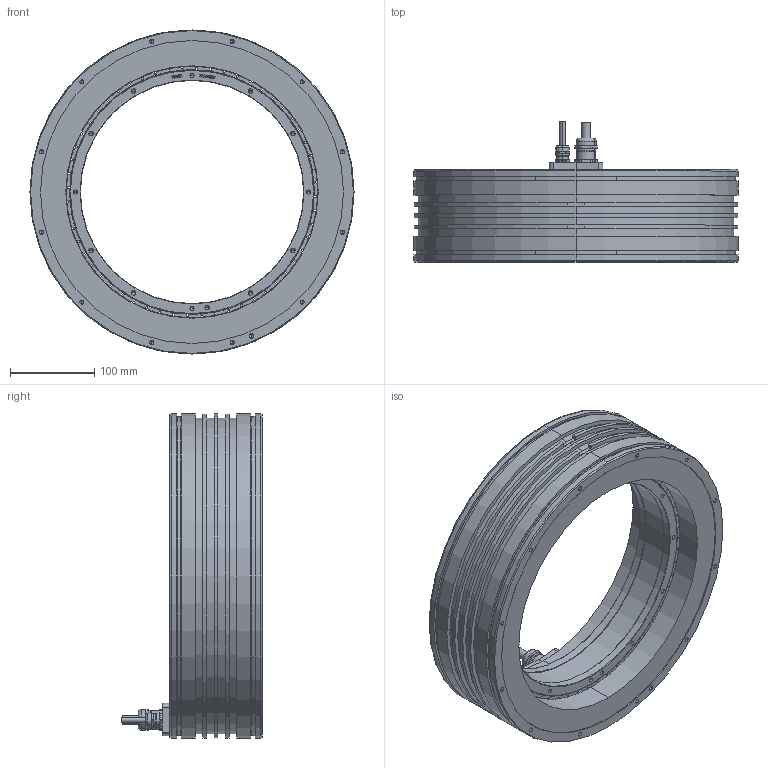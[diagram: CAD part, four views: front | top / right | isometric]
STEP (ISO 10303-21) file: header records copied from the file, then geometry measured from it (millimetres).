
FILE_DESCRIPTION (( 'STEP AP214' ), '1' );
FILE_NAME ('TORQUE KIT QMT LA 385-110-I-AX.STEP', '2025-09-04T13:31:31', ( '' ), ( '' ), 'SwSTEP 2.0', 'SolidWorks 2023', '' );
FILE_SCHEMA (( 'AUTOMOTIVE_DESIGN' ));
Length unit declared in the file: millimetre
Products named in the file (21): Housing-BO; Cable Connection; Magnet; Cable; Screw; Cable Gland; Stator; Cable Clamp; Cooling Ring; Rotor; Housing; Rotor_Glued; Rotor Ring; Resin; TORQUE KIT QMT LA 385-110-I-AX
Assembly tree (76 placements, depth 6):
  TORQUE KIT QMT LA 385-110-I-AX
    Stator
      Stator
        Housing
          Housing-BO
            Cooling Ring
        Cable Connection
          Cable Connection
          Cable
          Cable
        Resin
      Cable Clamp
        Cable Clamp
        Cable Gland
        Cable Gland
      Screw  x3
    Rotor
      Rotor_Glued
        Rotor Ring
        Magnet  x28
        Magnet  x28
Bounding box: 385 x 167.1 x 385 mm (x, y, z)
Volume: 5445512.9 mm3; surface area: 894363.7 mm2
Topology: 68 solids, 68 shells, 2878 faces, 6748 edges, 3795 vertices
Faces by surface type: cylinder 1100, plane 579, sphere 560, torus 252, cone 216, bspline 171
Entity records: 46747 total; most frequent: CARTESIAN_POINT 12833, ORIENTED_EDGE 5552, DIRECTION 5412, EDGE_CURVE 2776, AXIS2_PLACEMENT_3D 2040, VERTEX_POINT 1777, LINE 1332, VECTOR 1332
